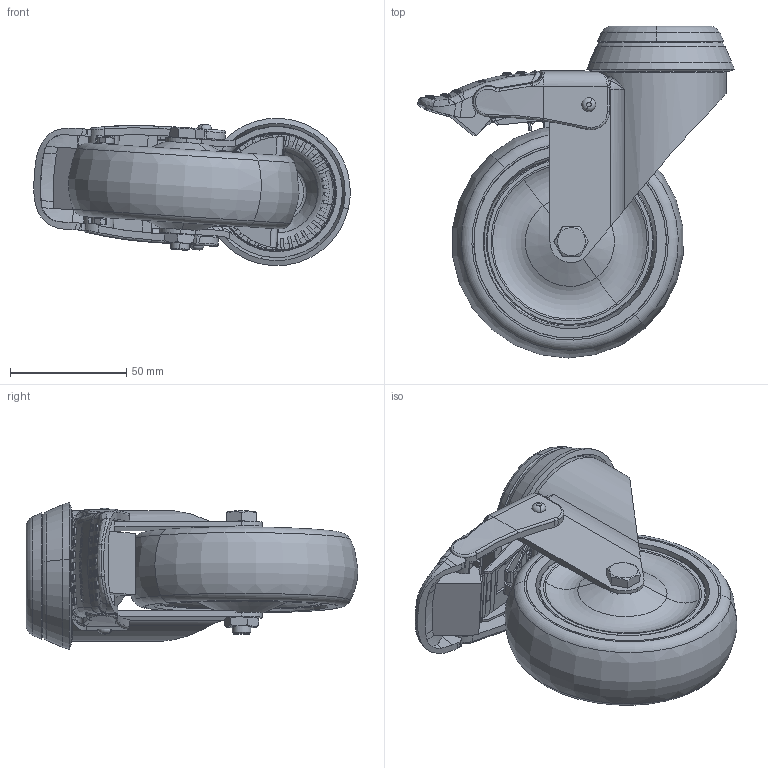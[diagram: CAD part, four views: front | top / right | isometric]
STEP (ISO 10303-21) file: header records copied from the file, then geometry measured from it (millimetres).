
FILE_DESCRIPTION (( 'STEP AP203' ), '1' );
FILE_NAME ('301114_STEP.STEP', '2012-02-28T07:45:54', ( '' ), ( '' ), 'SwSTEP 2.0', 'SolidWorks 2011', '' );
FILE_SCHEMA (( 'CONFIG_CONTROL_DESIGN' ));
Length unit declared in the file: millimetre
Products named in the file (1): 301114_STEP
Bounding box: 136.07 x 142.68 x 63.32 mm (x, y, z)
Surface area: 104218.1 mm2 (no closed solid volume)
Topology: 0 solids, 21 shells, 839 faces, 3087 edges, 2184 vertices
Faces by surface type: bspline 328, plane 297, cylinder 120, cone 53, torus 41
Entity records: 58290 total; most frequent: CARTESIAN_POINT 36867, ORIENTED_EDGE 4841, EDGE_CURVE 3082, DIRECTION 2932, VERTEX_POINT 2184, B_SPLINE_CURVE_WITH_KNOTS 1509, VECTOR 1008, LINE 1008
